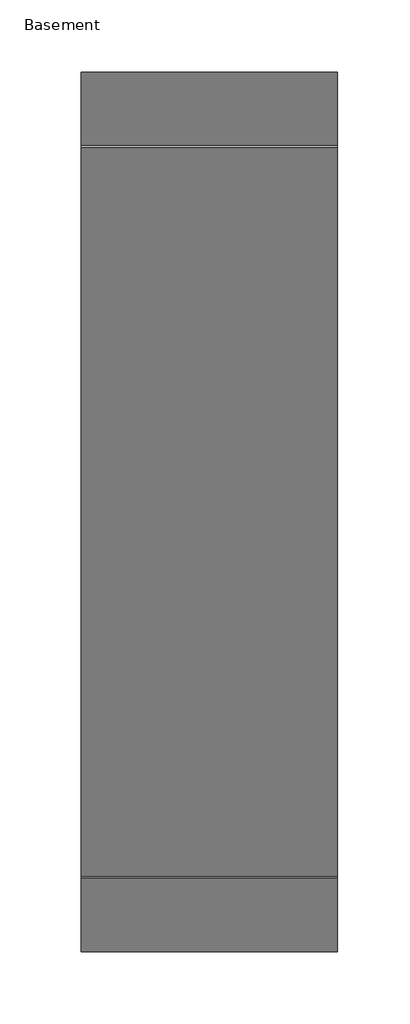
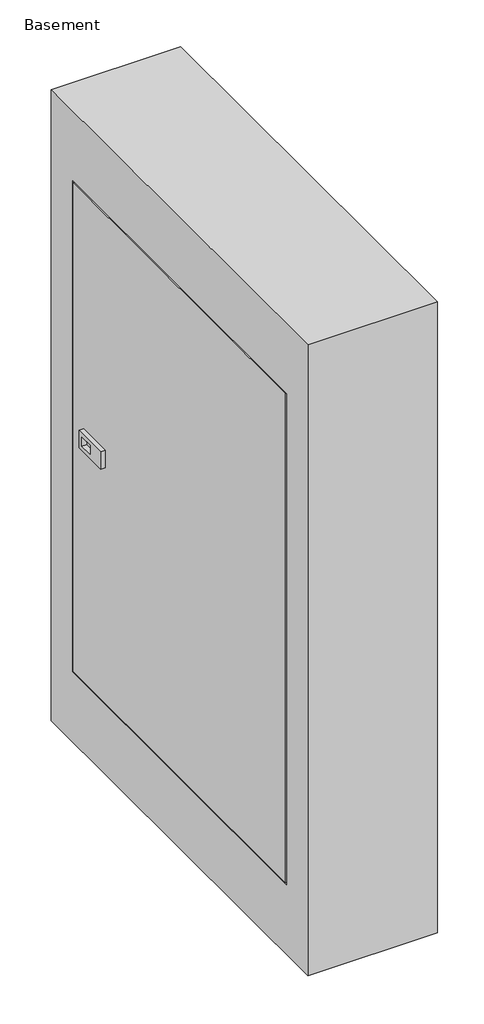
# One storey, incomplete: 1 proxy.
"""IFC4 building model written with IfcOpenShell, lengths in millimetres."""

from ifc_helpers import new_model, si_unit, origin, place, context, project, spatial, transform, mapped, element, save
from components import electrical_power_panel_3952_cbc499cc

model = new_model("IFC4")

# Units and contexts
model_context = context("Model", 3, world=origin())
ifc_project = project(units=[si_unit("LENGTHUNIT", "METRE", prefix="MILLI")], contexts=[model_context])

# Site, building, storey
site = spatial("IfcSite", under=ifc_project)
building = spatial("IfcBuilding", under=site)
storey = spatial("IfcBuildingStorey", under=building, Name="Basement", Elevation=-2590.8)

# Proxy
placement = place(None, origin())
electrical_power_panel_3952_shape = electrical_power_panel_3952_cbc499cc(model_context)
element("IfcBuildingElementProxy", 1, Name="Electrical_Power_Panel_3952 : 24\"W. x 36\"H. x 7\"D.", ObjectType="Electrical_Power_Panel_3952 : 24\"W. x 36\"H. x 7\"D.", at=placement, inside=storey, context=model_context, shape_type="MappedRepresentation", body=[
    mapped(electrical_power_panel_3952_shape, transform((-2744.3723863, -8808.4869172, -2590.8), x_axis=(0.0, 1.0, 0.0), y_axis=(-1.0, 0.0, 0.0), z_axis=(0.0, 0.0, 1.0))),
])

save(model, "model.ifc")
